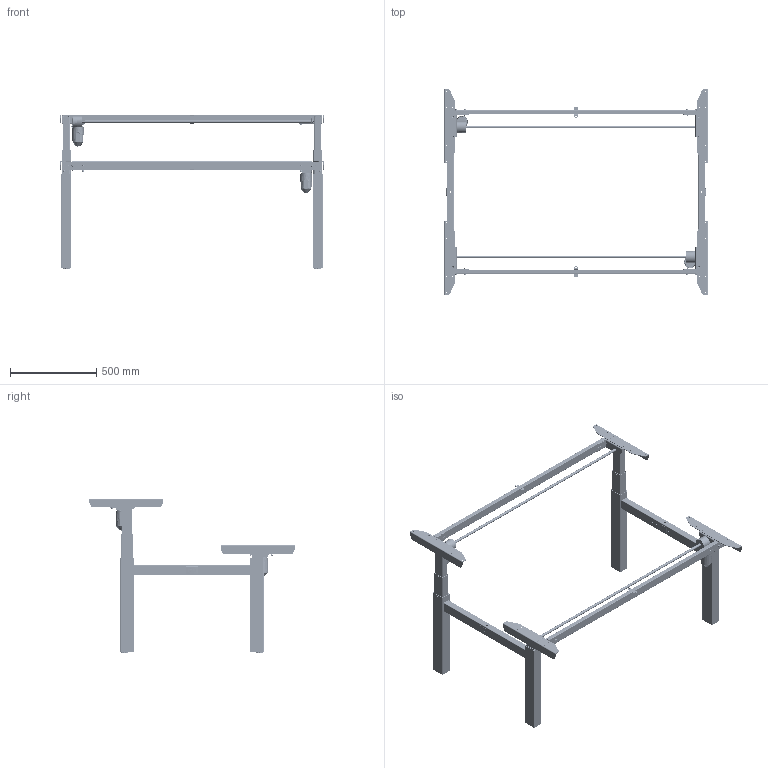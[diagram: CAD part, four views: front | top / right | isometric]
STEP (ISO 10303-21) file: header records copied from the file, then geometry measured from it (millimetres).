
FILE_DESCRIPTION (( 'STEP AP203' ), '1' );
FILE_NAME ('Tech-draw_501-88_XX152.STEP', '2019-09-26T07:11:27', ( '' ), ( '' ), 'SwSTEP 2.0', 'SolidWorks 2018', '' );
FILE_SCHEMA (( 'CONFIG_CONTROL_DESIGN' ));
Length unit declared in the file: millimetre
Products named in the file (39): 347920_152; 149220_501-88 XB152; 346250_black1; 342310; 344430_black; 347910_152; 308630; 346910_black; 341220; 348920_black; 341800; 143690_black1; 142080_black1; 142070_black1; 346210_shell view; 143700_black1; 347590; Tech-draw_501-88_XX152; 306980; 346640; 143700_black; 346330; 346260; 347360_black; 324520_black; 346290_shell view; 340560; 332570; 352610; 346340; 143710_black1; 342310_black; 341210; 340760; 347080_black; 143690_black; 341800_black; 144260_152; 346190_shell view
Assembly tree (123 placements, depth 6):
  Tech-draw_501-88_XX152
    149220_501-88 XB152
      347910_152  x2
      143690_black
        143700_black
          143710_black1
            347590
            346260  x2
          346250_black1  x2
          342310_black  x2
          341800_black  x6
          346910_black  x2
        142070_black1
          346290_shell view
          346190_shell view
          346330
          346640
        142080_black1
          346290_shell view
          346210_shell view
          346340
          346640
        344430_black
        324520_black  x2
        341800_black  x3
        341800  x3
        342310_black
        342310
        306980  x2
        347360_black  x2
        347080_black  x2
        352610
      143690_black1
        143700_black1
          143710_black1
            347590
            346260  x2
          346250_black1  x2
          342310_black  x2
          341800_black  x6
          346910_black  x2
        142070_black1
          346290_shell view
          346190_shell view
          346330
          346640
        142080_black1
          346290_shell view
          346210_shell view
          346340
          346640
        344430_black
        324520_black  x2
        341800  x3
        341800_black  x3
        342310
        342310_black
        306980  x2
        347360_black  x2
        347080_black  x2
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Bounding box: 1524.9 x 1190 x 892.65 mm (x, y, z)
Volume: 5355261.6 mm3; surface area: 5516859.5 mm2
Topology: 124 solids, 124 shells, 7998 faces, 21100 edges, 13512 vertices
Faces by surface type: plane 4264, cylinder 2254, bspline 956, torus 262, cone 226, sphere 36
Full cylindrical faces by diameter (mm): 2.8 x4, 3 x4, 4 x24, 4.6 x8, 5 x32, 6 x16, 6.1 x4, 7 x32, 7.6 x8, 8 x24, 10 x18, 11.9 x4, 12 x2, 13 x4, 15 x4, 16 x4, 18 x6, 20 x2, 24 x4, 37.6 x8, 60 x2
Entity records: 105825 total; most frequent: CARTESIAN_POINT 42695, ORIENTED_EDGE 12196, DIRECTION 11187, EDGE_CURVE 6098, VERTEX_POINT 3964, AXIS2_PLACEMENT_3D 3962, LINE 3263, VECTOR 3263
